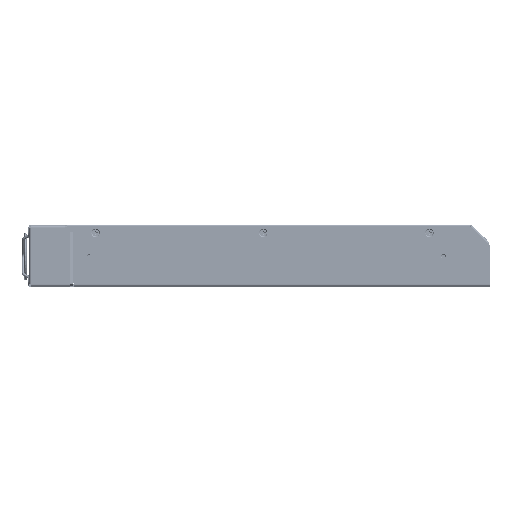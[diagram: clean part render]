
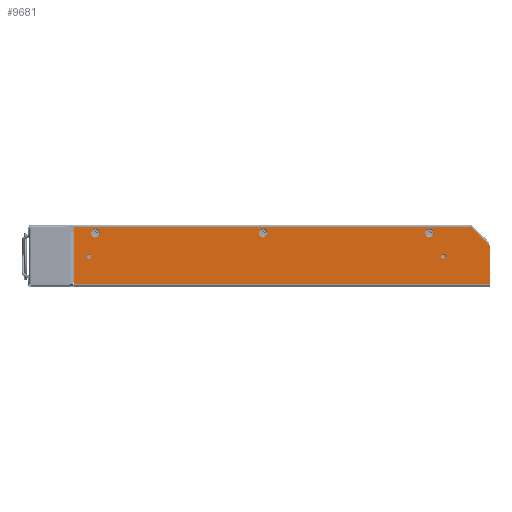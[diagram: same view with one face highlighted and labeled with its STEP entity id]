
A CAD part, top view. The second image highlights one B-rep face of the part: STEP entity #9681.
In plain terms, the highlighted planar face has unit normal (0, 0, 1).
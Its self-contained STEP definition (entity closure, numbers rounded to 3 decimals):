
#5410=DIRECTION('',(1.,0.,0.));
#5411=VECTOR('',#5410,274.8);
#5412=CARTESIAN_POINT('',(-274.8,1.5,63.5));
#5413=LINE('',#5412,#5411);
#5428=DIRECTION('',(-0.707,0.707,0.));
#5429=VECTOR('',#5428,16.971);
#5430=CARTESIAN_POINT('',(0.,27.4,63.5));
#5431=LINE('',#5430,#5429);
#5432=DIRECTION('',(0.,1.,0.));
#5433=VECTOR('',#5432,25.9);
#5434=CARTESIAN_POINT('',(0.,1.5,63.5));
#5435=LINE('',#5434,#5433);
#5436=DIRECTION('',(1.,0.,0.));
#5437=VECTOR('',#5436,0.5);
#5438=CARTESIAN_POINT('',(-275.3,1.5,63.5));
#5439=LINE('',#5438,#5437);
#5440=DIRECTION('',(0.,-1.,0.));
#5441=VECTOR('',#5440,37.9);
#5442=CARTESIAN_POINT('',(-275.3,39.4,63.5));
#5443=LINE('',#5442,#5441);
#5444=DIRECTION('',(-1.,0.,0.));
#5445=VECTOR('',#5444,263.3);
#5446=CARTESIAN_POINT('',(-12.,39.4,63.5));
#5447=LINE('',#5446,#5445);
#5448=CARTESIAN_POINT('',(-260.8,35.6,63.5));
#5449=DIRECTION('',(0.,0.,-1.));
#5450=DIRECTION('',(-1.,0.,0.));
#5451=AXIS2_PLACEMENT_3D('',#5448,#5449,#5450);
#5453=CARTESIAN_POINT('',(-260.8,35.6,63.5));
#5454=DIRECTION('',(0.,0.,-1.));
#5455=DIRECTION('',(1.,0.,0.));
#5456=AXIS2_PLACEMENT_3D('',#5453,#5454,#5455);
#5458=CARTESIAN_POINT('',(-149.8,35.6,63.5));
#5459=DIRECTION('',(0.,0.,-1.));
#5460=DIRECTION('',(-1.,0.,0.));
#5461=AXIS2_PLACEMENT_3D('',#5458,#5459,#5460);
#5463=CARTESIAN_POINT('',(-149.8,35.6,63.5));
#5464=DIRECTION('',(0.,0.,-1.));
#5465=DIRECTION('',(1.,0.,0.));
#5466=AXIS2_PLACEMENT_3D('',#5463,#5464,#5465);
#5468=CARTESIAN_POINT('',(-39.8,35.6,63.5));
#5469=DIRECTION('',(0.,0.,-1.));
#5470=DIRECTION('',(-1.,0.,0.));
#5471=AXIS2_PLACEMENT_3D('',#5468,#5469,#5470);
#5473=CARTESIAN_POINT('',(-39.8,35.6,63.5));
#5474=DIRECTION('',(0.,0.,-1.));
#5475=DIRECTION('',(1.,0.,0.));
#5476=AXIS2_PLACEMENT_3D('',#5473,#5474,#5475);
#5478=CARTESIAN_POINT('',(-30.5,20.,63.5));
#5479=DIRECTION('',(0.,0.,-1.));
#5480=DIRECTION('',(-1.,0.,0.));
#5481=AXIS2_PLACEMENT_3D('',#5478,#5479,#5480);
#5483=CARTESIAN_POINT('',(-30.5,20.,63.5));
#5484=DIRECTION('',(0.,0.,-1.));
#5485=DIRECTION('',(1.,0.,0.));
#5486=AXIS2_PLACEMENT_3D('',#5483,#5484,#5485);
#5488=CARTESIAN_POINT('',(-265.,20.,63.5));
#5489=DIRECTION('',(0.,0.,-1.));
#5490=DIRECTION('',(-1.,0.,0.));
#5491=AXIS2_PLACEMENT_3D('',#5488,#5489,#5490);
#5493=CARTESIAN_POINT('',(-265.,20.,63.5));
#5494=DIRECTION('',(0.,0.,-1.));
#5495=DIRECTION('',(1.,0.,0.));
#5496=AXIS2_PLACEMENT_3D('',#5493,#5494,#5495);
#7950=CARTESIAN_POINT('',(0.,1.5,63.5));
#7952=VERTEX_POINT('',#7950);
#7958=CARTESIAN_POINT('',(-275.3,39.4,63.5));
#7960=VERTEX_POINT('',#7958);
#7994=CARTESIAN_POINT('',(-274.8,1.5,63.5));
#7995=VERTEX_POINT('',#7994);
#8346=CARTESIAN_POINT('',(0.,27.4,63.5));
#8347=CARTESIAN_POINT('',(-12.,39.4,63.5));
#8348=VERTEX_POINT('',#8346);
#8349=VERTEX_POINT('',#8347);
#8386=CARTESIAN_POINT('',(-263.6,35.6,63.5));
#8387=CARTESIAN_POINT('',(-258.,35.6,63.5));
#8388=VERTEX_POINT('',#8386);
#8389=VERTEX_POINT('',#8387);
#8506=CARTESIAN_POINT('',(-152.6,35.6,63.5));
#8507=CARTESIAN_POINT('',(-147.,35.6,63.5));
#8508=VERTEX_POINT('',#8506);
#8509=VERTEX_POINT('',#8507);
#8514=CARTESIAN_POINT('',(-42.6,35.6,63.5));
#8515=CARTESIAN_POINT('',(-37.,35.6,63.5));
#8516=VERTEX_POINT('',#8514);
#8517=VERTEX_POINT('',#8515);
#8570=CARTESIAN_POINT('',(-32.,20.,63.5));
#8571=CARTESIAN_POINT('',(-29.,20.,63.5));
#8572=VERTEX_POINT('',#8570);
#8573=VERTEX_POINT('',#8571);
#8586=CARTESIAN_POINT('',(-275.3,1.5,63.5));
#8587=VERTEX_POINT('',#8586);
#8598=CARTESIAN_POINT('',(-266.5,20.,63.5));
#8599=CARTESIAN_POINT('',(-263.5,20.,63.5));
#8600=VERTEX_POINT('',#8598);
#8601=VERTEX_POINT('',#8599);
#9633=CARTESIAN_POINT('',(0.,0.,63.5));
#9634=DIRECTION('',(0.,0.,1.));
#9635=DIRECTION('',(1.,0.,0.));
#9636=AXIS2_PLACEMENT_3D('',#9633,#9634,#9635);
#9637=PLANE('',#9636);
#9639=ORIENTED_EDGE('',*,*,#9638,.F.);
#9641=ORIENTED_EDGE('',*,*,#9640,.F.);
#9642=ORIENTED_EDGE('',*,*,#9624,.F.);
#9644=ORIENTED_EDGE('',*,*,#9643,.F.);
#9646=ORIENTED_EDGE('',*,*,#9645,.F.);
#9648=ORIENTED_EDGE('',*,*,#9647,.F.);
#9649=EDGE_LOOP('',(#9639,#9641,#9642,#9644,#9646,#9648));
#9650=FACE_OUTER_BOUND('',#9649,.F.);
#9652=ORIENTED_EDGE('',*,*,#9651,.F.);
#9654=ORIENTED_EDGE('',*,*,#9653,.F.);
#9655=EDGE_LOOP('',(#9652,#9654));
#9656=FACE_BOUND('',#9655,.F.);
#9658=ORIENTED_EDGE('',*,*,#9657,.F.);
#9660=ORIENTED_EDGE('',*,*,#9659,.F.);
#9661=EDGE_LOOP('',(#9658,#9660));
#9662=FACE_BOUND('',#9661,.F.);
#9664=ORIENTED_EDGE('',*,*,#9663,.F.);
#9666=ORIENTED_EDGE('',*,*,#9665,.F.);
#9667=EDGE_LOOP('',(#9664,#9666));
#9668=FACE_BOUND('',#9667,.F.);
#9670=ORIENTED_EDGE('',*,*,#9669,.F.);
#9672=ORIENTED_EDGE('',*,*,#9671,.F.);
#9673=EDGE_LOOP('',(#9670,#9672));
#9674=FACE_BOUND('',#9673,.F.);
#9676=ORIENTED_EDGE('',*,*,#9675,.F.);
#9678=ORIENTED_EDGE('',*,*,#9677,.F.);
#9679=EDGE_LOOP('',(#9676,#9678));
#9680=FACE_BOUND('',#9679,.F.);
#5452=CIRCLE('',#5451,2.8);
#5457=CIRCLE('',#5456,2.8);
#5462=CIRCLE('',#5461,2.8);
#5467=CIRCLE('',#5466,2.8);
#5472=CIRCLE('',#5471,2.8);
#5477=CIRCLE('',#5476,2.8);
#5482=CIRCLE('',#5481,1.5);
#5487=CIRCLE('',#5486,1.5);
#5492=CIRCLE('',#5491,1.5);
#5497=CIRCLE('',#5496,1.5);
#9624=EDGE_CURVE('',#7995,#7952,#5413,.T.);
#9638=EDGE_CURVE('',#8348,#8349,#5431,.T.);
#9640=EDGE_CURVE('',#7952,#8348,#5435,.T.);
#9643=EDGE_CURVE('',#8587,#7995,#5439,.T.);
#9645=EDGE_CURVE('',#7960,#8587,#5443,.T.);
#9647=EDGE_CURVE('',#8349,#7960,#5447,.T.);
#9651=EDGE_CURVE('',#8388,#8389,#5452,.T.);
#9653=EDGE_CURVE('',#8389,#8388,#5457,.T.);
#9657=EDGE_CURVE('',#8508,#8509,#5462,.T.);
#9659=EDGE_CURVE('',#8509,#8508,#5467,.T.);
#9663=EDGE_CURVE('',#8516,#8517,#5472,.T.);
#9665=EDGE_CURVE('',#8517,#8516,#5477,.T.);
#9669=EDGE_CURVE('',#8572,#8573,#5482,.T.);
#9671=EDGE_CURVE('',#8573,#8572,#5487,.T.);
#9675=EDGE_CURVE('',#8600,#8601,#5492,.T.);
#9677=EDGE_CURVE('',#8601,#8600,#5497,.T.);
#9681=ADVANCED_FACE('',(#9650,#9656,#9662,#9668,#9674,#9680),#9637,.T.);
